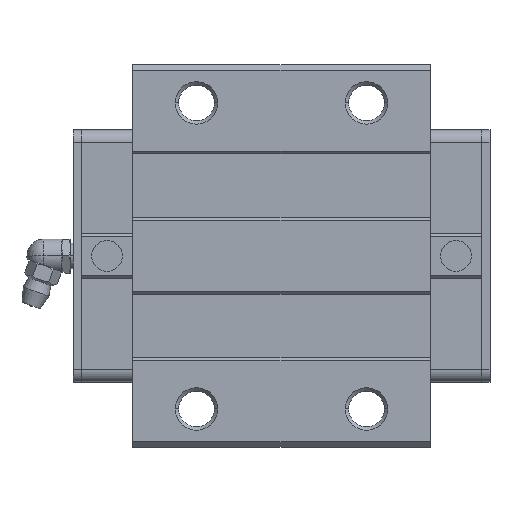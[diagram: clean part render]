
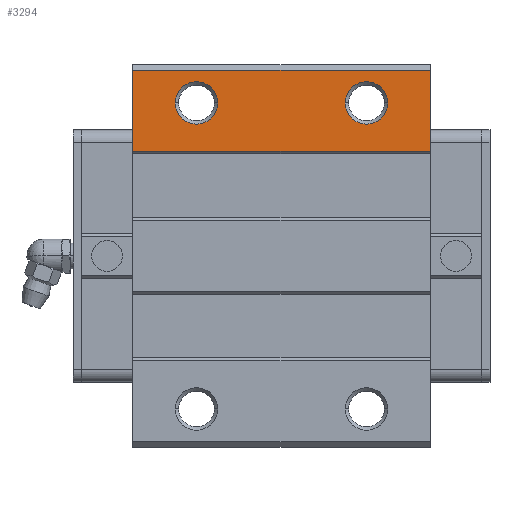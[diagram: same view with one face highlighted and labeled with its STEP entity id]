
A CAD part, top view. The second image highlights one B-rep face of the part: STEP entity #3294.
In plain terms, the highlighted planar face has unit normal (0, 0, 1).
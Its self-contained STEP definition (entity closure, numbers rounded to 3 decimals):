
#2988=CARTESIAN_POINT('POINT195',(84.1,24.651,32.));
#2989=VERTEX_POINT('VERTEX195',#2988);
#2996=CARTESIAN_POINT('POINT196',(14.,24.651,32.));
#2997=VERTEX_POINT('VERTEX196',#2996);
#2998=CARTESIAN_POINT('POS328',(14.,24.651,32.));
#2999=DIRECTION('DIR490',(1.,0.,0.));
#3000=VECTOR('VEC166',#2999,1.);
#3001=LINE('STRAIGHT166',#2998,#3000);
#3002=EDGE_CURVE('EDGE300',#2997,#2989,#3001,.T.);
#3036=CARTESIAN_POINT('POINT197',(14.,43.7,32.));
#3037=VERTEX_POINT('VERTEX197',#3036);
#3038=CARTESIAN_POINT('POS331',(14.,43.7,32.));
#3039=DIRECTION('DIR494',(0.,-1.,0.));
#3040=VECTOR('VEC168',#3039,1.);
#3041=LINE('STRAIGHT168',#3038,#3040);
#3042=EDGE_CURVE('EDGE302',#3037,#2997,#3041,.T.);
#3093=CARTESIAN_POINT('POINT198',(84.1,43.7,32.));
#3094=VERTEX_POINT('VERTEX198',#3093);
#3103=CARTESIAN_POINT('POS335',(14.,43.7,32.));
#3104=DIRECTION('DIR499',(1.,0.,0.));
#3105=VECTOR('VEC171',#3104,1.);
#3106=LINE('STRAIGHT171',#3103,#3105);
#3107=EDGE_CURVE('EDGE305',#3037,#3094,#3106,.T.);
#3154=CARTESIAN_POINT('POS337',(84.1,43.7,32.));
#3155=DIRECTION('DIR502',(0.,1.,0.));
#3156=VECTOR('VEC172',#3155,1.);
#3157=LINE('STRAIGHT172',#3154,#3156);
#3158=EDGE_CURVE('EDGE306',#2989,#3094,#3157,.T.);
#3184=CARTESIAN_POINT('POINT199',(24.05,36.,32.));
#3185=VERTEX_POINT('VERTEX199',#3184);
#3193=CARTESIAN_POINT('POINT200',(34.05,36.,32.));
#3194=VERTEX_POINT('VERTEX200',#3193);
#3201=CARTESIAN_POINT('POS341',(29.05,36.,32.));
#3202=DIRECTION('DIR507',(0.,0.,-1.));
#3203=DIRECTION('DIR508',(1.,0.,0.));
#3204=AXIS2_PLACEMENT_3D('AXIS167',#3201,#3202,#3203);
#3205=CIRCLE('ELLIPSE84',#3204,5.);
#3206=EDGE_CURVE('EDGE309',#3185,#3194,#3205,.T.);
#3217=EDGE_CURVE('EDGE310',#3194,#3185,#3205,.T.);
#3264=CARTESIAN_POINT('POINT203',(74.05,36.,32.));
#3265=VERTEX_POINT('VERTEX203',#3264);
#3266=CARTESIAN_POINT('POINT204',(64.05,36.,32.));
#3267=VERTEX_POINT('VERTEX204',#3266);
#3268=CARTESIAN_POINT('POS347',(69.05,36.,32.));
#3269=DIRECTION('DIR517',(0.,0.,-1.));
#3270=DIRECTION('DIR518',(1.,0.,0.));
#3271=AXIS2_PLACEMENT_3D('AXIS171',#3268,#3269,#3270);
#3272=CIRCLE('ELLIPSE86',#3271,5.);
#3273=EDGE_CURVE('EDGE315',#3265,#3267,#3272,.T.);
#3274=ORIENTED_EDGE('COEDGE621',*,*,#3273,.T.);
#3275=EDGE_CURVE('EDGE316',#3267,#3265,#3272,.T.);
#3276=ORIENTED_EDGE('COEDGE622',*,*,#3275,.T.);
#3277=EDGE_LOOP('NONE',(#3274,#3276));
#3278=FACE_BOUND('LOOP1',#3277,.T.);
#3279=ORIENTED_EDGE('COEDGE623',*,*,#3217,.T.);
#3280=ORIENTED_EDGE('COEDGE624',*,*,#3206,.T.);
#3281=EDGE_LOOP('NONE',(#3279,#3280));
#3282=FACE_BOUND('LOOP1',#3281,.T.);
#3283=ORIENTED_EDGE('COEDGE625',*,*,#3158,.T.);
#3284=ORIENTED_EDGE('COEDGE626',*,*,#3107,.F.);
#3285=ORIENTED_EDGE('COEDGE627',*,*,#3042,.T.);
#3286=ORIENTED_EDGE('COEDGE628',*,*,#3002,.T.);
#3287=EDGE_LOOP('NONE',(#3283,#3284,#3285,#3286));
#3288=FACE_BOUND('LOOP1',#3287,.T.);
#3289=CARTESIAN_POINT('POS348',(14.,24.651,32.));
#3290=DIRECTION('DIR519',(0.,0.,1.));
#3291=DIRECTION('DIR520',(1.,0.,0.));
#3292=AXIS2_PLACEMENT_3D('AXIS172',#3289,#3290,#3291);
#3293=PLANE('PLANE48',#3292);
#3294=ADVANCED_FACE('FACE110',(#3278,#3282,#3288),#3293,.T.);
